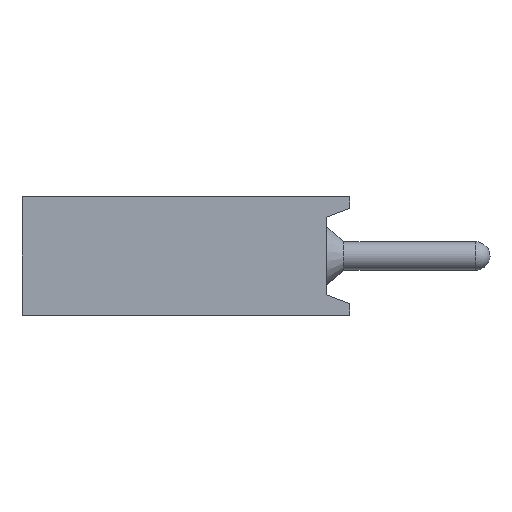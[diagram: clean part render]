
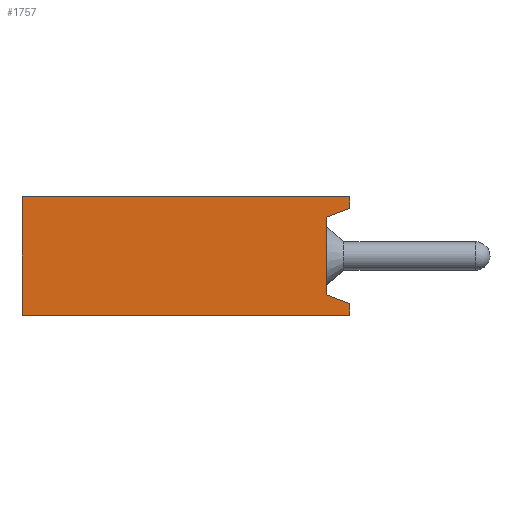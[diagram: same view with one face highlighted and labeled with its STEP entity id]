
A CAD part, left-side view. The second image highlights one B-rep face of the part: STEP entity #1757.
In plain terms, the highlighted planar face has unit normal (-1, 0, 0).
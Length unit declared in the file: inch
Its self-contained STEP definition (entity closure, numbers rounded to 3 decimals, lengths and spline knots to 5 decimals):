
#37=PLANE('',#1889);
#133=FACE_OUTER_BOUND('',#239,.T.);
#239=EDGE_LOOP('',(#1236,#1237,#1238,#1239,#1240,#1241,#1242,#1243));
#355=LINE('',#2566,#551);
#359=LINE('',#2575,#555);
#362=LINE('',#2579,#558);
#363=LINE('',#2582,#559);
#364=LINE('',#2584,#560);
#365=LINE('',#2586,#561);
#366=LINE('',#2588,#562);
#367=LINE('',#2589,#563);
#551=VECTOR('',#2062,0.3937);
#555=VECTOR('',#2068,0.3937);
#558=VECTOR('',#2073,0.3937);
#559=VECTOR('',#2076,0.3937);
#560=VECTOR('',#2077,0.3937);
#561=VECTOR('',#2078,0.3937);
#562=VECTOR('',#2079,0.3937);
#563=VECTOR('',#2080,0.3937);
#800=VERTEX_POINT('',#2563);
#801=VERTEX_POINT('',#2565);
#804=VERTEX_POINT('',#2572);
#805=VERTEX_POINT('',#2574);
#806=VERTEX_POINT('',#2581);
#807=VERTEX_POINT('',#2583);
#808=VERTEX_POINT('',#2585);
#809=VERTEX_POINT('',#2587);
#971=EDGE_CURVE('',#801,#800,#355,.T.);
#975=EDGE_CURVE('',#805,#804,#359,.T.);
#978=EDGE_CURVE('',#800,#805,#362,.T.);
#979=EDGE_CURVE('',#806,#804,#363,.T.);
#980=EDGE_CURVE('',#806,#807,#364,.T.);
#981=EDGE_CURVE('',#808,#807,#365,.T.);
#982=EDGE_CURVE('',#809,#808,#366,.T.);
#983=EDGE_CURVE('',#801,#809,#367,.T.);
#1236=ORIENTED_EDGE('',*,*,#971,.T.);
#1237=ORIENTED_EDGE('',*,*,#978,.T.);
#1238=ORIENTED_EDGE('',*,*,#975,.T.);
#1239=ORIENTED_EDGE('',*,*,#979,.F.);
#1240=ORIENTED_EDGE('',*,*,#980,.T.);
#1241=ORIENTED_EDGE('',*,*,#981,.F.);
#1242=ORIENTED_EDGE('',*,*,#982,.F.);
#1243=ORIENTED_EDGE('',*,*,#983,.F.);
#1757=ADVANCED_FACE('',(#133),#37,.T.);
#1889=AXIS2_PLACEMENT_3D('',#2580,#2074,#2075);
#2062=DIRECTION('',(0.,0.94,0.342));
#2068=DIRECTION('',(0.,-0.94,0.342));
#2073=DIRECTION('',(0.,0.,1.));
#2074=DIRECTION('center_axis',(-1.,0.,0.));
#2075=DIRECTION('ref_axis',(0.,0.,1.));
#2076=DIRECTION('',(0.,0.,-1.));
#2077=DIRECTION('',(0.,1.,0.));
#2078=DIRECTION('',(0.,0.,1.));
#2079=DIRECTION('',(0.,1.,0.));
#2080=DIRECTION('',(0.,0.,-1.));
#2563=CARTESIAN_POINT('',(0.,0.02,0.01728));
#2565=CARTESIAN_POINT('',(0.,0.,0.01));
#2566=CARTESIAN_POINT('',(0.,-0.00161,0.00942));
#2572=CARTESIAN_POINT('',(0.,0.,0.09));
#2574=CARTESIAN_POINT('',(0.,0.02,0.08272));
#2575=CARTESIAN_POINT('',(0.,0.02446,0.0811));
#2579=CARTESIAN_POINT('',(0.,0.02,0.00864));
#2580=CARTESIAN_POINT('Origin',(0.,0.,0.));
#2581=CARTESIAN_POINT('',(0.,0.,0.1));
#2582=CARTESIAN_POINT('',(0.,0.,0.1));
#2583=CARTESIAN_POINT('',(0.,0.276,0.1));
#2584=CARTESIAN_POINT('',(0.,0.,0.1));
#2585=CARTESIAN_POINT('',(0.,0.276,0.));
#2586=CARTESIAN_POINT('',(0.,0.276,0.1));
#2587=CARTESIAN_POINT('',(0.,0.,0.));
#2588=CARTESIAN_POINT('',(0.,0.,0.));
#2589=CARTESIAN_POINT('',(0.,0.,0.1));
